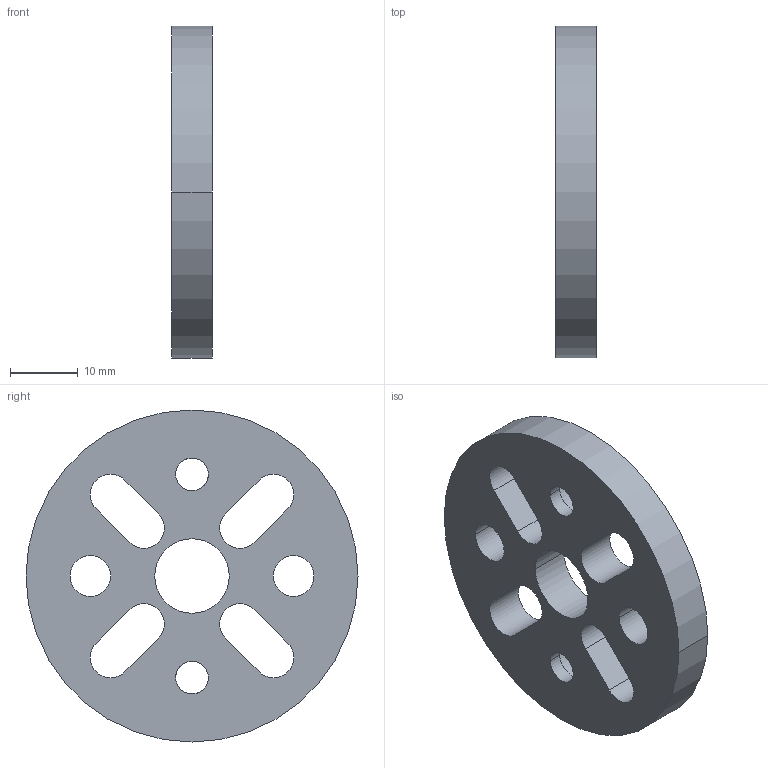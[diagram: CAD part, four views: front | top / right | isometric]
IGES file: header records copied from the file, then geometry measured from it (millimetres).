
Start section: START RECORD GO HERE.
Global section: file name: 1360.000.010.000.ENGRAE.igs; native system: DASSAULT SYSTEMES CATIA Version 5-6 Release 2018 - www.3ds.com; preprocessor: V5-6R2018_5.28.6.0.03-10-2020.20.00; author: Pc; organization: DESKTOP-CAESKE4; date: 20241108.095507; units: millimetre
Bounding box: 6 x 49 x 49 mm (x, y, z)
Surface area: 5247 mm2 (no closed solid volume)
Topology: 0 solids, 0 shells, 36 faces, 192 edges, 192 vertices
Faces by surface type: revolution 24, plane 12
